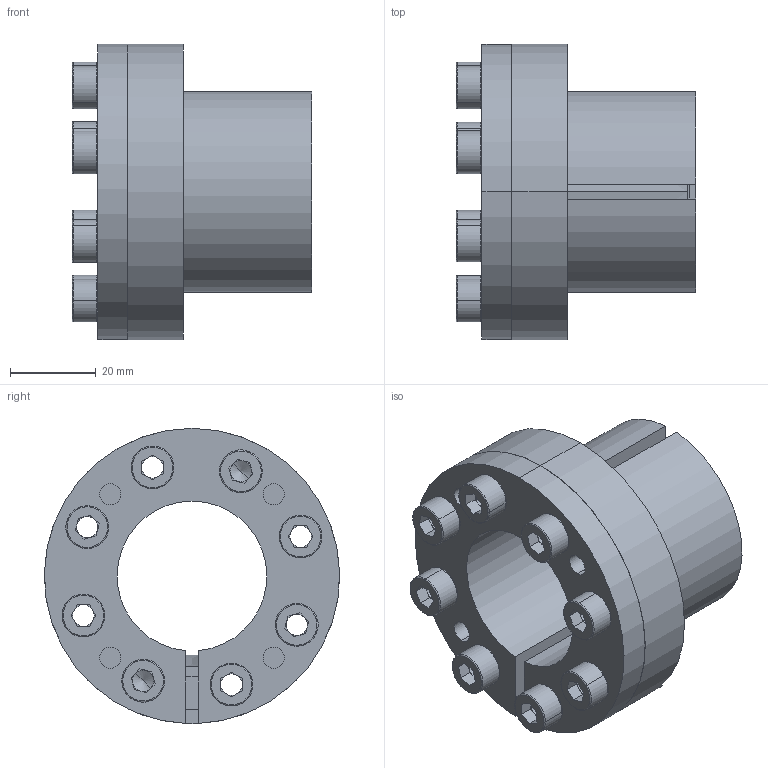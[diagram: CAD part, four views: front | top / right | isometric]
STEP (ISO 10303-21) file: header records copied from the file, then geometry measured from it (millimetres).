
FILE_DESCRIPTION (( 'STEP AP203' ), '1' );
FILE_NAME ('T-35-47.STEP', '2017-10-13T08:10:24', ( 'MYCOM' ), ( '' ), 'SwSTEP 2.0', 'SolidWorks 2015', '' );
FILE_SCHEMA (( 'CONFIG_CONTROL_DESIGN' ));
Length unit declared in the file: millimetre
Products named in the file (1): T-35-47
Bounding box: 56 x 69 x 69 mm (x, y, z)
Surface area: 40575.5 mm2 (no closed solid volume)
Topology: 0 solids, 11 shells, 215 faces, 559 edges, 348 vertices
Faces by surface type: plane 109, cylinder 67, torus 32, cone 7
Entity records: 6649 total; most frequent: DIRECTION 1251, CARTESIAN_POINT 1131, ORIENTED_EDGE 1007, EDGE_CURVE 555, AXIS2_PLACEMENT_3D 484, VERTEX_POINT 348, VECTOR 283, LINE 283
